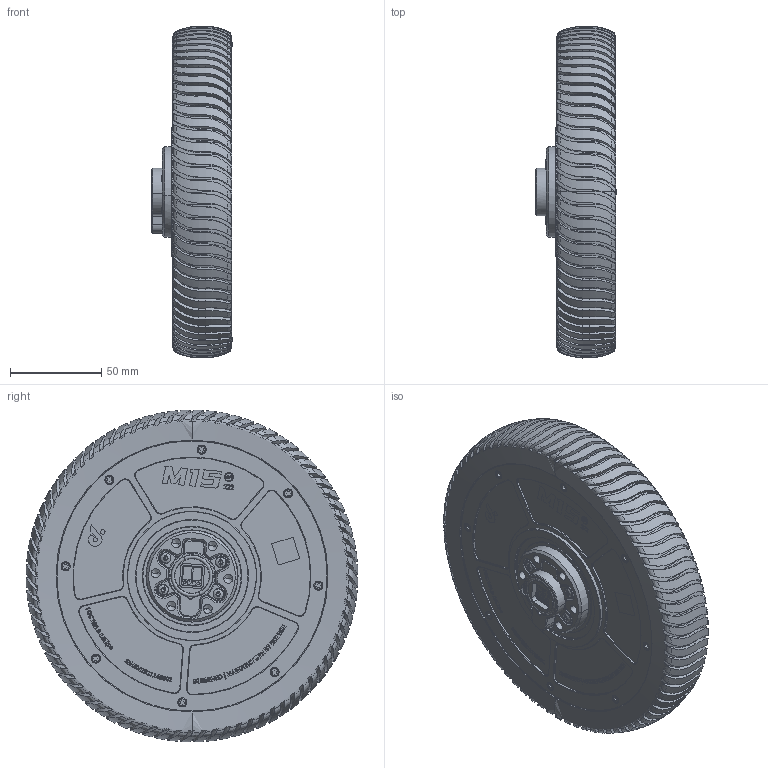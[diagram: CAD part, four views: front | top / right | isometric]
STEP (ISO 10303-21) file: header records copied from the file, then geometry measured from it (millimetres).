
FILE_DESCRIPTION (( 'STEP AP214' ), '1' );
FILE_NAME ('CP.BM.000132 M1505A_222俋倛芞耀倰.STEP', '2024-05-18T12:04:51', ( '003' ), ( '' ), 'SwSTEP 2.0', 'SolidWorks 2018', '' );
FILE_SCHEMA (( 'AUTOMOTIVE_DESIGN' ));
Length unit declared in the file: millimetre
Products named in the file (4): M1505A_222萇埭諉盄啣; M1505A_111 电机总成（单电机）; BM.XJ.AC00010.01 M1505A_111_謫怚_蚾饜綴; CP.BM.000132  M1505A_222俋倛芞耀倰
Assembly tree (3 placements, depth 2):
  CP.BM.000132  M1505A_222俋倛芞耀倰
    BM.XJ.AC00010.01 M1505A_111_謫怚_蚾饜綴
    M1505A_111 电机总成（单电机）
    M1505A_222萇埭諉盄啣
Bounding box: 44.08 x 182.2 x 182.2 mm (x, y, z)
Volume: 638720.7 mm3; surface area: 144440 mm2
Topology: 14 solids, 22 shells, 4351 faces, 12056 edges, 7290 vertices
Faces by surface type: bspline 1873, plane 1338, cylinder 791, cone 290, torus 51, sphere 8
Entity records: 323715 total; most frequent: CARTESIAN_POINT 202204, ORIENTED_EDGE 22774, DIRECTION 14308, EDGE_CURVE 11387, VERTEX_POINT 7290, AXIS2_PLACEMENT_3D 4972, EDGE_LOOP 4663, VECTOR 4364
